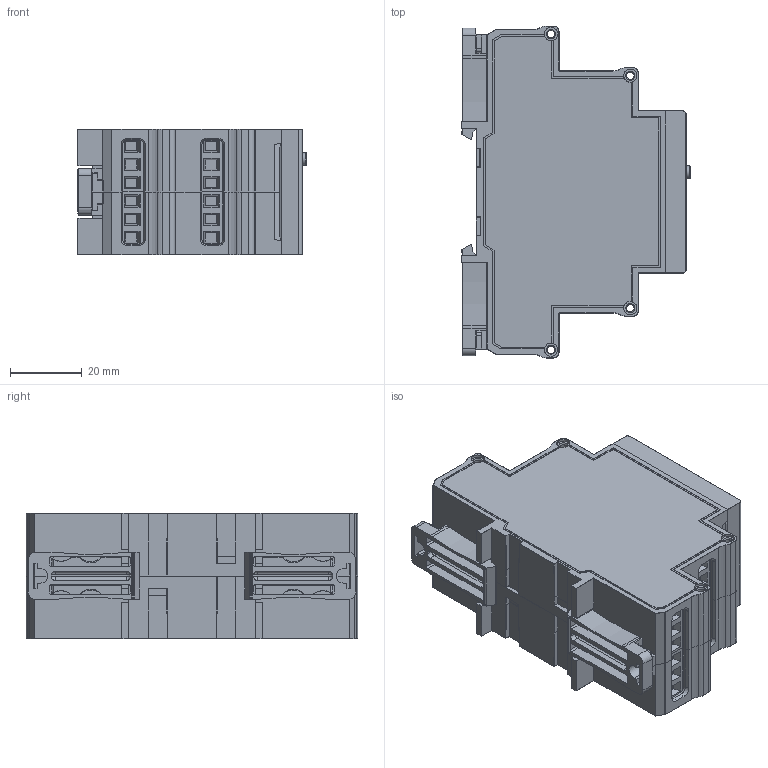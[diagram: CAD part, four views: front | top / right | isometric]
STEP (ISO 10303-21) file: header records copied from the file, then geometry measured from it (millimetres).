
FILE_DESCRIPTION(('STEP AP242'), '1');
FILE_NAME('栖闉罻_曶-05-04', '', ('UNSPECIFIED'), ('UNSPECIFIED'), 'C3D Converter', 'C3D Toolkit', '');
FILE_SCHEMA(('AP242_MANAGED_MODEL_BASED_3D_ENGINEERING_MIM_LF { 1 0 10303 442 1 1 4 }'));
Length unit declared in the file: millimetre
Products named in the file (15): Case_UC1-2sR-2024_SimpleModel_17mm; Case13-18-23mm_2step_Lock_v01a_Build20140909_1552; DG128-5.08_Configurable_5.08x3; Case_UC1-2sR-2025_Face_FR.FP.0000082
Assembly tree (22 placements, depth 2):
  (unnamed)
    Case_UC1-2sR-2024_SimpleModel_17mm  x2
    Case13-18-23mm_2step_Lock_v01a_Build20140909_1552  x2
    DG128-5.08_Configurable_5.08x3  x6
    (unnamed)  x2
    Case_UC1-2sR-2025_Face_FR.FP.0000082
    (unnamed)
    (unnamed)
    (unnamed)
    (unnamed)
    (unnamed)
    (unnamed)
    (unnamed)
    (unnamed)
    (unnamed)
Bounding box: 63.73 x 92.4 x 35 mm (x, y, z)
Volume: 42231 mm3; surface area: 57991.3 mm2
Topology: 66 solids, 66 shells, 5563 faces, 15378 edges, 10015 vertices
Faces by surface type: plane 4548, cylinder 425, extrusion 407, torus 99, cone 40, sphere 40, bspline 4
Full cylindrical faces by diameter (mm): 1.238 x18, 2.1 x10, 2.3 x10, 3.5 x1, 3.7 x8, 3.9 x22, 4.5 x1, 4.7 x1
Entity records: 167303 total; most frequent: CARTESIAN_POINT 27967, ORIENTED_EDGE 23248, DIRECTION 19178, EDGE_CURVE 11624, VECTOR 10664, LINE 10257, VERTEX_POINT 7687, EDGE_LOOP 4311
